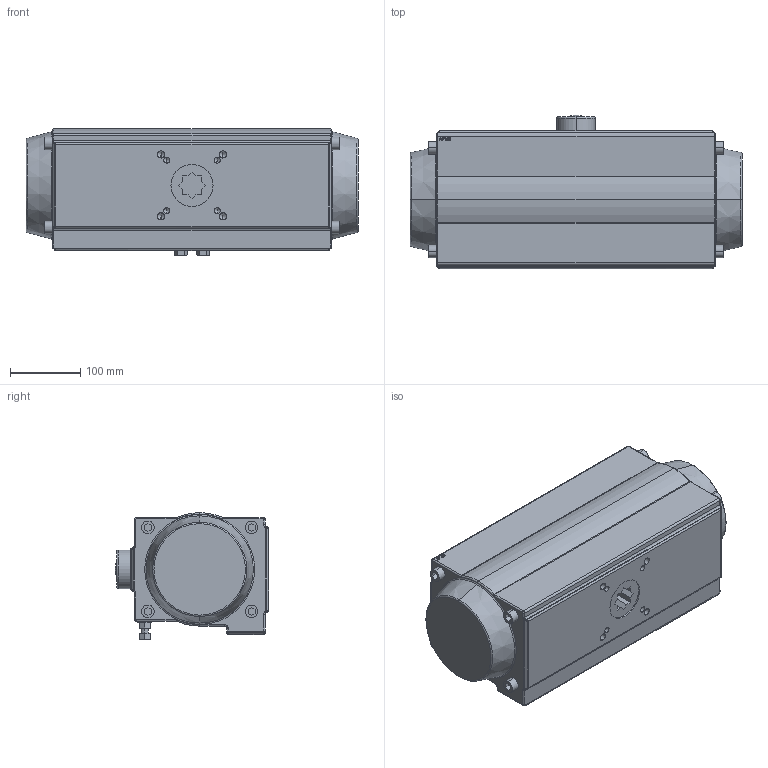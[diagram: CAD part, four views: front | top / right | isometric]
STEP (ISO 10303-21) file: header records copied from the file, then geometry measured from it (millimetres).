
FILE_DESCRIPTION (( 'STEP AP203' ), '1' );
FILE_NAME ('AP160.STEP', '2020-04-08T11:54:23', ( '' ), ( '' ), 'SwSTEP 2.0', 'SolidWorks 2017', '' );
FILE_SCHEMA (( 'CONFIG_CONTROL_DESIGN' ));
Length unit declared in the file: millimetre
Products named in the file (1): AP160
Bounding box: 474 x 219 x 180.84 mm (x, y, z)
Volume: 13352413.3 mm3; surface area: 390715.4 mm2
Topology: 1 solids, 1 shells, 502 faces, 1191 edges, 713 vertices
Faces by surface type: plane 203, cylinder 126, cone 68, bspline 53, torus 38, sphere 14
Entity records: 16634 total; most frequent: CARTESIAN_POINT 5468, ORIENTED_EDGE 2302, DIRECTION 2249, EDGE_CURVE 1151, AXIS2_PLACEMENT_3D 802, VERTEX_POINT 713, LINE 645, VECTOR 645
